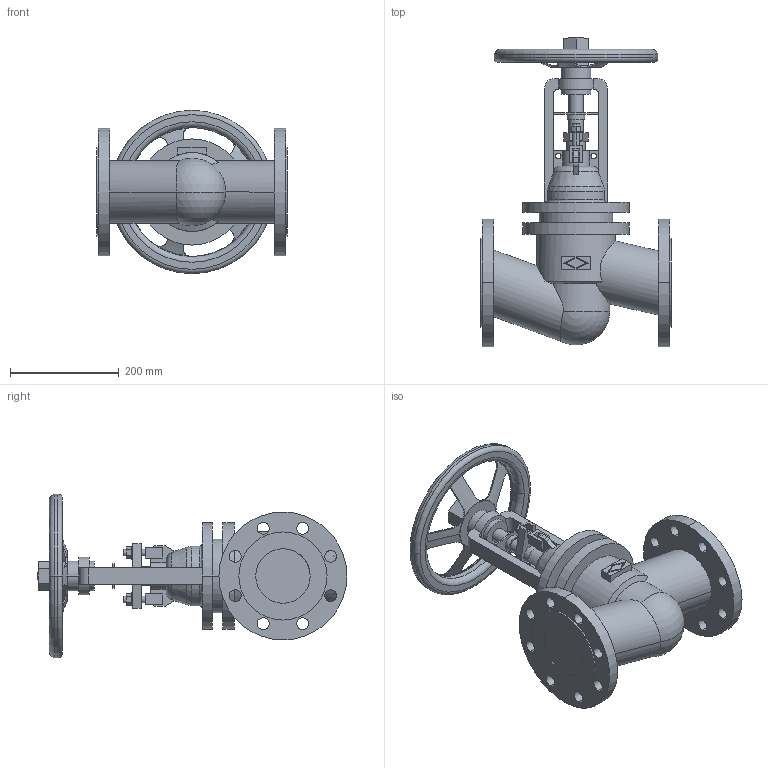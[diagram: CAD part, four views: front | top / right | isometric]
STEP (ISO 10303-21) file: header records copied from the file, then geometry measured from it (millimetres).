
FILE_DESCRIPTION(('OneSpaceDesigner STEP Export'),'2;1');
FILE_NAME('c000003743.stp','2010-04-27T 9:26:31',(''),(''),'OneSpace Designer STEP processor for AP214 (Solid Model)','OneSpace Modeling 15.50B 03-Nov-2007 (C) CoCreate Software GmbH','');
FILE_SCHEMA(('AUTOMOTIVE_DESIGN { 1 0 10303 214 1 1 1 1 }'));
Length unit declared in the file: millimetre
Products named in the file (1): 1
Bounding box: 350 x 569.2 x 300 mm (x, y, z)
Volume: 9708026 mm3; surface area: 684080.4 mm2
Topology: 1 solids, 1 shells, 331 faces, 918 edges, 604 vertices
Faces by surface type: cylinder 150, plane 145, torus 22, cone 12, sphere 2
Entity records: 13817 total; most frequent: CARTESIAN_POINT 3262, ORIENTED_EDGE 1816, DIRECTION 1401, EDGE_CURVE 908, VERTEX_POINT 600, AXIS2_PLACEMENT_3D 485, VECTOR 431, LINE 431
